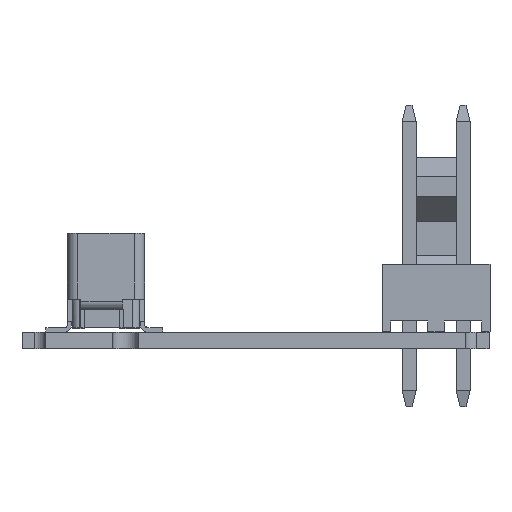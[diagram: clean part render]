
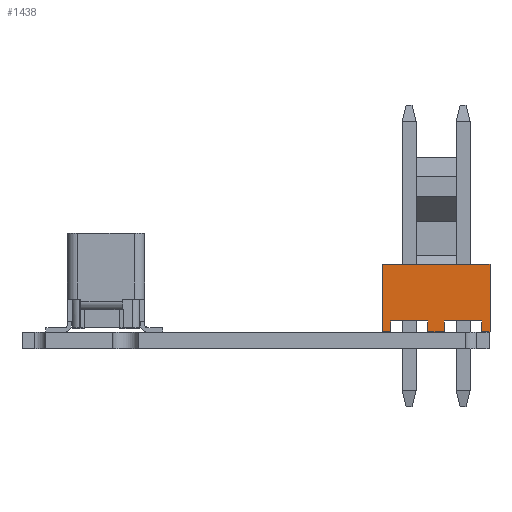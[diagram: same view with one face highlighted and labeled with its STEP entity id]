
A CAD part, front view. The second image highlights one B-rep face of the part: STEP entity #1438.
In plain terms, the highlighted planar face has unit normal (0, -1, 0).
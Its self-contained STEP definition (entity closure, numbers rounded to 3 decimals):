
#1438=ADVANCED_FACE('',(#3063),#2097,.T.);
#2097=PLANE('',#20380);
#3063=FACE_OUTER_BOUND('',#4120,.T.);
#4120=EDGE_LOOP('',(#10015,#10016,#10017,#10018,#10019,#10020,#10021,#10022,
#10023,#10024,#10025,#10026));
#10015=ORIENTED_EDGE('',*,*,#14622,.F.);
#10016=ORIENTED_EDGE('',*,*,#14623,.F.);
#10017=ORIENTED_EDGE('',*,*,#14624,.F.);
#10018=ORIENTED_EDGE('',*,*,#14625,.T.);
#10019=ORIENTED_EDGE('',*,*,#14620,.T.);
#10020=ORIENTED_EDGE('',*,*,#14626,.F.);
#10021=ORIENTED_EDGE('',*,*,#14605,.F.);
#10022=ORIENTED_EDGE('',*,*,#14600,.T.);
#10023=ORIENTED_EDGE('',*,*,#14627,.F.);
#10024=ORIENTED_EDGE('',*,*,#14628,.F.);
#10025=ORIENTED_EDGE('',*,*,#14629,.F.);
#10026=ORIENTED_EDGE('',*,*,#14596,.T.);
#11930=VERTEX_POINT('',#31047);
#11931=VERTEX_POINT('',#31049);
#11934=VERTEX_POINT('',#31056);
#11935=VERTEX_POINT('',#31058);
#11938=VERTEX_POINT('',#31065);
#11950=VERTEX_POINT('',#31095);
#11951=VERTEX_POINT('',#31097);
#11952=VERTEX_POINT('',#31101);
#11953=VERTEX_POINT('',#31103);
#11954=VERTEX_POINT('',#31105);
#11955=VERTEX_POINT('',#31109);
#11956=VERTEX_POINT('',#31111);
#14596=EDGE_CURVE('',#11931,#11930,#16650,.T.);
#14600=EDGE_CURVE('',#11935,#11934,#16654,.T.);
#14605=EDGE_CURVE('',#11935,#11938,#16659,.T.);
#14620=EDGE_CURVE('',#11951,#11950,#16674,.T.);
#14622=EDGE_CURVE('',#11952,#11930,#16676,.T.);
#14623=EDGE_CURVE('',#11953,#11952,#16677,.T.);
#14624=EDGE_CURVE('',#11954,#11953,#16678,.T.);
#14625=EDGE_CURVE('',#11954,#11951,#16679,.T.);
#14626=EDGE_CURVE('',#11938,#11950,#16680,.T.);
#14627=EDGE_CURVE('',#11955,#11934,#16681,.T.);
#14628=EDGE_CURVE('',#11956,#11955,#16682,.T.);
#14629=EDGE_CURVE('',#11931,#11956,#16683,.T.);
#16650=LINE('',#31048,#18704);
#16654=LINE('',#31057,#18708);
#16659=LINE('',#31067,#18713);
#16674=LINE('',#31096,#18728);
#16676=LINE('',#31100,#18730);
#16677=LINE('',#31102,#18731);
#16678=LINE('',#31104,#18732);
#16679=LINE('',#31106,#18733);
#16680=LINE('',#31107,#18734);
#16681=LINE('',#31108,#18735);
#16682=LINE('',#31110,#18736);
#16683=LINE('',#31112,#18737);
#18704=VECTOR('',#25482,1.);
#18708=VECTOR('',#25488,1.);
#18713=VECTOR('',#25495,1.);
#18728=VECTOR('',#25514,1.);
#18730=VECTOR('',#25518,1.);
#18731=VECTOR('',#25519,1.);
#18732=VECTOR('',#25520,1.);
#18733=VECTOR('',#25521,1.);
#18734=VECTOR('',#25522,1.);
#18735=VECTOR('',#25523,1.);
#18736=VECTOR('',#25524,1.);
#18737=VECTOR('',#25525,1.);
#20380=AXIS2_PLACEMENT_3D('',#31113,#25526,#25527);
#25482=DIRECTION('',(1.,0.,0.));
#25488=DIRECTION('',(1.,0.,0.));
#25495=DIRECTION('',(0.,0.,1.));
#25514=DIRECTION('',(0.,0.,1.));
#25518=DIRECTION('',(0.,0.,-1.));
#25519=DIRECTION('',(-1.,0.,0.));
#25520=DIRECTION('',(0.,0.,1.));
#25521=DIRECTION('',(1.,0.,0.));
#25522=DIRECTION('',(1.,0.,0.));
#25523=DIRECTION('',(0.,0.,-1.));
#25524=DIRECTION('',(-1.,0.,0.));
#25525=DIRECTION('',(0.,0.,1.));
#25526=DIRECTION('',(0.,-1.,0.));
#25527=DIRECTION('',(-1.,0.,0.));
#31047=CARTESIAN_POINT('',(-2.105,13.2,0.025));
#31048=CARTESIAN_POINT('',(-5.04,13.2,0.025));
#31049=CARTESIAN_POINT('',(-2.895,13.2,0.025));
#31056=CARTESIAN_POINT('',(-4.645,13.2,0.025));
#31057=CARTESIAN_POINT('',(-5.04,13.2,0.025));
#31058=CARTESIAN_POINT('',(-5.04,13.2,0.025));
#31065=CARTESIAN_POINT('',(-5.04,13.2,3.205));
#31067=CARTESIAN_POINT('',(-5.04,13.2,0.025));
#31095=CARTESIAN_POINT('',(0.04,13.2,3.205));
#31096=CARTESIAN_POINT('',(0.04,13.2,0.025));
#31097=CARTESIAN_POINT('',(0.04,13.2,0.025));
#31100=CARTESIAN_POINT('',(-2.105,13.2,0.025));
#31101=CARTESIAN_POINT('',(-2.105,13.2,0.525));
#31102=CARTESIAN_POINT('',(-0.355,13.2,0.525));
#31103=CARTESIAN_POINT('',(-0.355,13.2,0.525));
#31104=CARTESIAN_POINT('',(-0.355,13.2,0.025));
#31105=CARTESIAN_POINT('',(-0.355,13.2,0.025));
#31106=CARTESIAN_POINT('',(-5.04,13.2,0.025));
#31107=CARTESIAN_POINT('',(-5.04,13.2,3.205));
#31108=CARTESIAN_POINT('',(-4.645,13.2,0.025));
#31109=CARTESIAN_POINT('',(-4.645,13.2,0.525));
#31110=CARTESIAN_POINT('',(-4.645,13.2,0.525));
#31111=CARTESIAN_POINT('',(-2.895,13.2,0.525));
#31112=CARTESIAN_POINT('',(-2.895,13.2,0.025));
#31113=CARTESIAN_POINT('',(-5.04,13.2,0.025));
